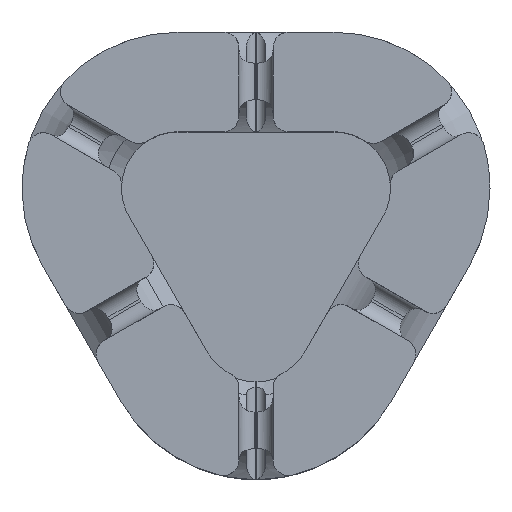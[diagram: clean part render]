
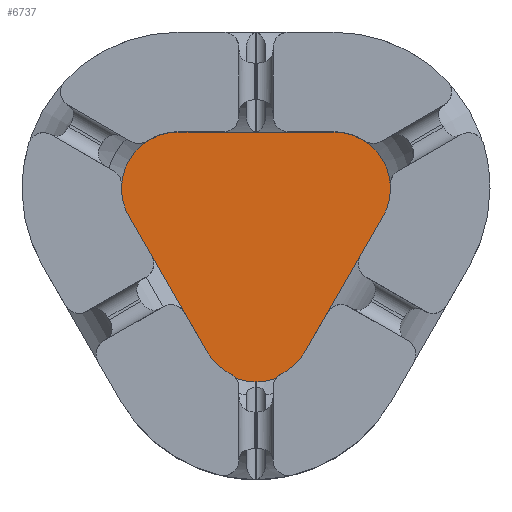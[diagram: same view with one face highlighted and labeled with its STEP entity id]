
A CAD part, top view. The second image highlights one B-rep face of the part: STEP entity #6737.
In plain terms, the highlighted planar face has unit normal (0, 0, 1).
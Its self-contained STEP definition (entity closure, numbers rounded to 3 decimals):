
#36 = VERTEX_POINT ( 'NONE', #5552 ) ;
#102 = VERTEX_POINT ( 'NONE', #4028 ) ;
#112 = EDGE_CURVE ( 'NONE', #1248, #5704, #4627, .T. ) ;
#128 = CARTESIAN_POINT ( 'NONE',  ( 4., 10.419, 0.4 ) ) ;
#137 = DIRECTION ( 'NONE',  ( -1., 0., 0. ) ) ;
#167 = CARTESIAN_POINT ( 'NONE',  ( -4., 20.619, 0.4 ) ) ;
#176 = LINE ( 'NONE', #1339, #4190 ) ;
#352 = LINE ( 'NONE', #2735, #1643 ) ;
#439 = DIRECTION ( 'NONE',  ( -1., 0., 0. ) ) ;
#552 = EDGE_CURVE ( 'NONE', #1646, #2843, #1897, .T. ) ;
#603 = EDGE_CURVE ( 'NONE', #5579, #4528, #4462, .T. ) ;
#666 = CARTESIAN_POINT ( 'NONE',  ( -8., 4.619, 0.4 ) ) ;
#685 = CARTESIAN_POINT ( 'NONE',  ( -4., -24.73, 0.4 ) ) ;
#769 = ORIENTED_EDGE ( 'NONE', *, *, #552, .F. ) ;
#845 = ORIENTED_EDGE ( 'NONE', *, *, #4060, .T. ) ;
#874 = VECTOR ( 'NONE', #3611, 1000. ) ;
#918 = DIRECTION ( 'NONE',  ( 0., 1., 0. ) ) ;
#970 = EDGE_CURVE ( 'NONE', #5764, #36, #6799, .T. ) ;
#971 = AXIS2_PLACEMENT_3D ( 'NONE', #6314, #5814, #6928 ) ;
#1151 = CARTESIAN_POINT ( 'NONE',  ( 4., 20.619, 0.4 ) ) ;
#1225 = VECTOR ( 'NONE', #1951, 1000. ) ;
#1248 = VERTEX_POINT ( 'NONE', #128 ) ;
#1254 = LINE ( 'NONE', #6133, #4501 ) ;
#1263 = AXIS2_PLACEMENT_3D ( 'NONE', #666, #3406, #137 ) ;
#1282 = ORIENTED_EDGE ( 'NONE', *, *, #2244, .T. ) ;
#1328 = EDGE_CURVE ( 'NONE', #1646, #102, #2397, .T. ) ;
#1339 = CARTESIAN_POINT ( 'NONE',  ( -8., 20.619, 0.4 ) ) ;
#1465 = CARTESIAN_POINT ( 'NONE',  ( -4., -25.238, 0.4 ) ) ;
#1529 = CARTESIAN_POINT ( 'NONE',  ( 0., -9.238, 0.4 ) ) ;
#1533 = VERTEX_POINT ( 'NONE', #1151 ) ;
#1581 = EDGE_CURVE ( 'NONE', #102, #4788, #352, .T. ) ;
#1599 = CARTESIAN_POINT ( 'NONE',  ( 0., -9.238, 0.4 ) ) ;
#1643 = VECTOR ( 'NONE', #4905, 1000. ) ;
#1646 = VERTEX_POINT ( 'NONE', #6484 ) ;
#1667 = AXIS2_PLACEMENT_3D ( 'NONE', #1529, #4820, #2645 ) ;
#1668 = CARTESIAN_POINT ( 'NONE',  ( 4., -13.438, 0.4 ) ) ;
#1778 = CIRCLE ( 'NONE', #2948, 5.8 ) ;
#1791 = CARTESIAN_POINT ( 'NONE',  ( -8., 4.619, 0.4 ) ) ;
#1833 = CARTESIAN_POINT ( 'NONE',  ( 8., 4.619, 0.4 ) ) ;
#1848 = EDGE_CURVE ( 'NONE', #1533, #6645, #176, .T. ) ;
#1897 = LINE ( 'NONE', #4541, #874 ) ;
#1941 = FACE_OUTER_BOUND ( 'NONE', #6419, .T. ) ;
#1951 = DIRECTION ( 'NONE',  ( 1., 0., 0. ) ) ;
#2093 = CARTESIAN_POINT ( 'NONE',  ( 4., -25.238, 0.4 ) ) ;
#2113 = LINE ( 'NONE', #2938, #3988 ) ;
#2146 = CIRCLE ( 'NONE', #1667, 5.8 ) ;
#2208 = LINE ( 'NONE', #2699, #4171 ) ;
#2244 = EDGE_CURVE ( 'NONE', #3168, #5764, #2113, .T. ) ;
#2252 = CARTESIAN_POINT ( 'NONE',  ( -4., -13.438, 0.4 ) ) ;
#2354 = DIRECTION ( 'NONE',  ( 0., 0., 1. ) ) ;
#2397 = CIRCLE ( 'NONE', #3375, 5.8 ) ;
#2459 = VECTOR ( 'NONE', #5864, 1000. ) ;
#2560 = ORIENTED_EDGE ( 'NONE', *, *, #603, .F. ) ;
#2589 = ORIENTED_EDGE ( 'NONE', *, *, #4978, .T. ) ;
#2628 = DIRECTION ( 'NONE',  ( 0., 1., 0. ) ) ;
#2645 = DIRECTION ( 'NONE',  ( -1., 0., 0. ) ) ;
#2699 = CARTESIAN_POINT ( 'NONE',  ( 4., -25.238, 0.4 ) ) ;
#2735 = CARTESIAN_POINT ( 'NONE',  ( -13.023, 1.719, 0.4 ) ) ;
#2839 = PLANE ( 'NONE',  #1263 ) ;
#2843 = VERTEX_POINT ( 'NONE', #6551 ) ;
#2856 = DIRECTION ( 'NONE',  ( 0., 1., 0. ) ) ;
#2938 = CARTESIAN_POINT ( 'NONE',  ( 5.023, -12.138, 0.4 ) ) ;
#2948 = AXIS2_PLACEMENT_3D ( 'NONE', #1599, #3724, #4810 ) ;
#3004 = DIRECTION ( 'NONE',  ( -1., 0., 0. ) ) ;
#3161 = DIRECTION ( 'NONE',  ( 0., 0., 1. ) ) ;
#3168 = VERTEX_POINT ( 'NONE', #4181 ) ;
#3169 = VERTEX_POINT ( 'NONE', #5248 ) ;
#3375 = AXIS2_PLACEMENT_3D ( 'NONE', #1791, #5575, #6804 ) ;
#3406 = DIRECTION ( 'NONE',  ( 0., 0., -1. ) ) ;
#3479 = CIRCLE ( 'NONE', #6029, 5.8 ) ;
#3578 = EDGE_CURVE ( 'NONE', #3169, #5579, #5937, .T. ) ;
#3611 = DIRECTION ( 'NONE',  ( 1., 0., 0. ) ) ;
#3618 = CARTESIAN_POINT ( 'NONE',  ( -8., 10.419, 0.4 ) ) ;
#3724 = DIRECTION ( 'NONE',  ( 0., 0., 1. ) ) ;
#3802 = EDGE_CURVE ( 'NONE', #5029, #3168, #2146, .T. ) ;
#3876 = VECTOR ( 'NONE', #918, 1000. ) ;
#3973 = ORIENTED_EDGE ( 'NONE', *, *, #112, .F. ) ;
#3988 = VECTOR ( 'NONE', #4031, 1000. ) ;
#4028 = CARTESIAN_POINT ( 'NONE',  ( -13.023, 1.719, 0.4 ) ) ;
#4031 = DIRECTION ( 'NONE',  ( 0.5, 0.866, 0. ) ) ;
#4042 = ORIENTED_EDGE ( 'NONE', *, *, #5245, .T. ) ;
#4060 = EDGE_CURVE ( 'NONE', #3169, #5029, #4676, .T. ) ;
#4171 = VECTOR ( 'NONE', #2628, 1000. ) ;
#4181 = CARTESIAN_POINT ( 'NONE',  ( 5.023, -12.138, 0.4 ) ) ;
#4190 = VECTOR ( 'NONE', #6723, 1000. ) ;
#4462 = LINE ( 'NONE', #1465, #3876 ) ;
#4501 = VECTOR ( 'NONE', #2856, 1000. ) ;
#4528 = VERTEX_POINT ( 'NONE', #2252 ) ;
#4541 = CARTESIAN_POINT ( 'NONE',  ( -8., 10.419, 0.4 ) ) ;
#4627 = LINE ( 'NONE', #3618, #1225 ) ;
#4676 = LINE ( 'NONE', #2093, #2459 ) ;
#4679 = ORIENTED_EDGE ( 'NONE', *, *, #1848, .T. ) ;
#4725 = CARTESIAN_POINT ( 'NONE',  ( 8., 4.619, 0.4 ) ) ;
#4788 = VERTEX_POINT ( 'NONE', #6738 ) ;
#4810 = DIRECTION ( 'NONE',  ( -1., 0., 0. ) ) ;
#4820 = DIRECTION ( 'NONE',  ( 0., 0., 1. ) ) ;
#4905 = DIRECTION ( 'NONE',  ( 0.5, -0.866, 0. ) ) ;
#4978 = EDGE_CURVE ( 'NONE', #1248, #1533, #2208, .T. ) ;
#5029 = VERTEX_POINT ( 'NONE', #1668 ) ;
#5145 = ORIENTED_EDGE ( 'NONE', *, *, #3578, .F. ) ;
#5245 = EDGE_CURVE ( 'NONE', #4788, #4528, #1778, .T. ) ;
#5248 = CARTESIAN_POINT ( 'NONE',  ( 4., -24.73, 0.4 ) ) ;
#5276 = AXIS2_PLACEMENT_3D ( 'NONE', #4725, #3161, #439 ) ;
#5407 = ORIENTED_EDGE ( 'NONE', *, *, #1328, .T. ) ;
#5495 = EDGE_CURVE ( 'NONE', #2843, #6645, #1254, .T. ) ;
#5552 = CARTESIAN_POINT ( 'NONE',  ( 13.8, 4.619, 0.4 ) ) ;
#5575 = DIRECTION ( 'NONE',  ( 0., 0., 1. ) ) ;
#5579 = VERTEX_POINT ( 'NONE', #685 ) ;
#5601 = ORIENTED_EDGE ( 'NONE', *, *, #3802, .T. ) ;
#5625 = ORIENTED_EDGE ( 'NONE', *, *, #6582, .T. ) ;
#5629 = ORIENTED_EDGE ( 'NONE', *, *, #5495, .F. ) ;
#5699 = CARTESIAN_POINT ( 'NONE',  ( 8., 10.419, 0.4 ) ) ;
#5704 = VERTEX_POINT ( 'NONE', #5699 ) ;
#5764 = VERTEX_POINT ( 'NONE', #5872 ) ;
#5814 = DIRECTION ( 'NONE',  ( 0., 0., -1. ) ) ;
#5864 = DIRECTION ( 'NONE',  ( 0., 1., 0. ) ) ;
#5871 = ORIENTED_EDGE ( 'NONE', *, *, #970, .T. ) ;
#5872 = CARTESIAN_POINT ( 'NONE',  ( 13.023, 1.719, 0.4 ) ) ;
#5937 = CIRCLE ( 'NONE', #971, 16. ) ;
#5971 = ORIENTED_EDGE ( 'NONE', *, *, #1581, .T. ) ;
#6029 = AXIS2_PLACEMENT_3D ( 'NONE', #1833, #2354, #3004 ) ;
#6133 = CARTESIAN_POINT ( 'NONE',  ( -4., -25.238, 0.4 ) ) ;
#6314 = CARTESIAN_POINT ( 'NONE',  ( 0., -9.238, 0.4 ) ) ;
#6419 = EDGE_LOOP ( 'NONE', ( #845, #5601, #1282, #5871, #5625, #3973, #2589, #4679, #5629, #769, #5407, #5971, #4042, #2560, #5145 ) ) ;
#6484 = CARTESIAN_POINT ( 'NONE',  ( -8., 10.419, 0.4 ) ) ;
#6551 = CARTESIAN_POINT ( 'NONE',  ( -4., 10.419, 0.4 ) ) ;
#6582 = EDGE_CURVE ( 'NONE', #36, #5704, #3479, .T. ) ;
#6645 = VERTEX_POINT ( 'NONE', #167 ) ;
#6723 = DIRECTION ( 'NONE',  ( -1., 0., 0. ) ) ;
#6737 = ADVANCED_FACE ( 'NONE', ( #1941 ), #2839, .F. ) ;
#6738 = CARTESIAN_POINT ( 'NONE',  ( -5.023, -12.138, 0.4 ) ) ;
#6799 = CIRCLE ( 'NONE', #5276, 5.8 ) ;
#6804 = DIRECTION ( 'NONE',  ( -1., 0., 0. ) ) ;
#6928 = DIRECTION ( 'NONE',  ( -1., 0., 0. ) ) ;
